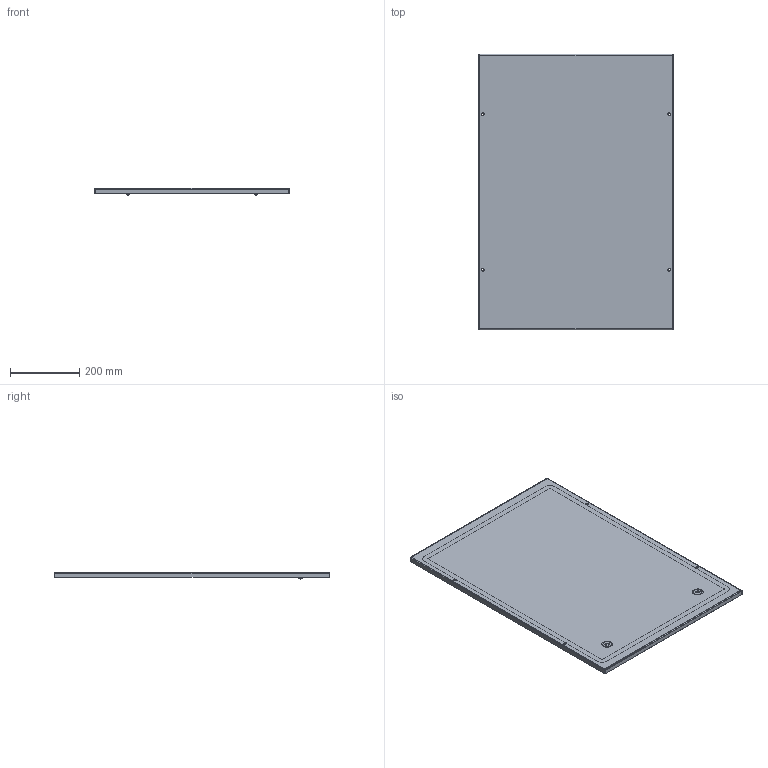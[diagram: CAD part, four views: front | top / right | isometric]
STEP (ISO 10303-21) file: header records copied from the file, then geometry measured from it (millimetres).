
FILE_DESCRIPTION (( 'STEP AP214' ), '1' );
FILE_NAME ('SPD 80.60.STEP', '2024-12-13T07:42:43', ( '' ), ( '' ), 'SwSTEP 2.0', 'SolidWorks 2019', '' );
FILE_SCHEMA (( 'AUTOMOTIVE_DESIGN' ));
Length unit declared in the file: millimetre
Products named in the file (1): SPD 80.60
Bounding box: 562.5 x 797 x 21.9 mm (x, y, z)
Volume: 844760.5 mm3; surface area: 987367.4 mm2
Topology: 5 solids, 5 shells, 236 faces, 568 edges, 355 vertices
Faces by surface type: cylinder 115, plane 69, cone 24, bspline 16, torus 12
Entity records: 12427 total; most frequent: CARTESIAN_POINT 7064, ORIENTED_EDGE 1128, DIRECTION 1022, EDGE_CURVE 564, AXIS2_PLACEMENT_3D 379, VERTEX_POINT 355, VECTOR 264, LINE 264
